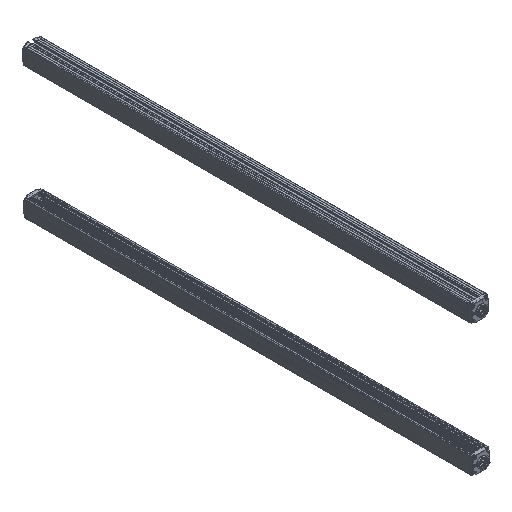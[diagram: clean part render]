
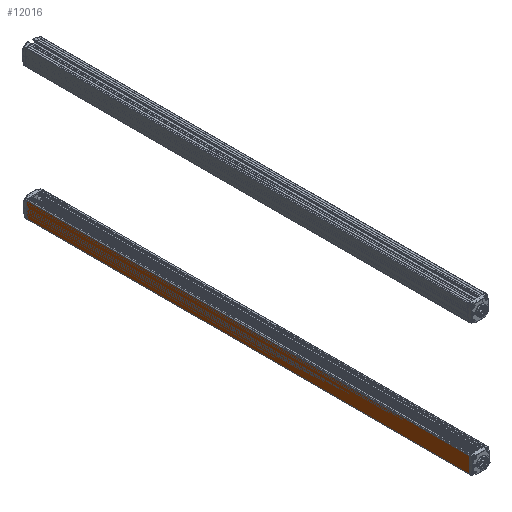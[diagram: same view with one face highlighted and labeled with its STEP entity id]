
A CAD part, isometric view. The second image highlights one B-rep face of the part: STEP entity #12016.
In plain terms, the highlighted planar face has unit normal (-1, 0, -0.009) as drawn and (1, 0, 0) by its records, which use the part's own axes.
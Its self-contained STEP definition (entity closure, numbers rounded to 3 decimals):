
#617 = ORIENTED_EDGE ( 'NONE', *, *, #15506, .T. ) ;
#2145 = CARTESIAN_POINT ( 'NONE',  ( 15., 0., -16.9 ) ) ;
#2593 = VERTEX_POINT ( 'NONE', #8473 ) ;
#3754 = CARTESIAN_POINT ( 'NONE',  ( 15., 770., -16.9 ) ) ;
#3949 = VECTOR ( 'NONE', #17865, 1000. ) ;
#4554 = VERTEX_POINT ( 'NONE', #4582 ) ;
#4582 = CARTESIAN_POINT ( 'NONE',  ( 15., 0., -16.693 ) ) ;
#4722 = DIRECTION ( 'NONE',  ( 0., -1., 0. ) ) ;
#5397 = VERTEX_POINT ( 'NONE', #18266 ) ;
#5401 = AXIS2_PLACEMENT_3D ( 'NONE', #12007, #7458, #10611 ) ;
#5612 = ORIENTED_EDGE ( 'NONE', *, *, #8802, .T. ) ;
#6107 = VECTOR ( 'NONE', #4722, 1000. ) ;
#7458 = DIRECTION ( 'NONE',  ( -1., 0., 0. ) ) ;
#7933 = ORIENTED_EDGE ( 'NONE', *, *, #11439, .T. ) ;
#8473 = CARTESIAN_POINT ( 'NONE',  ( 15., 770., 10.9 ) ) ;
#8792 = LINE ( 'NONE', #10362, #6107 ) ;
#8802 = EDGE_CURVE ( 'NONE', #5397, #4554, #17693, .T. ) ;
#9404 = DIRECTION ( 'NONE',  ( 0., 0., -1. ) ) ;
#9643 = CARTESIAN_POINT ( 'NONE',  ( 15., 770., -16.693 ) ) ;
#10362 = CARTESIAN_POINT ( 'NONE',  ( 15., 770., 10.9 ) ) ;
#10553 = VERTEX_POINT ( 'NONE', #13728 ) ;
#10611 = DIRECTION ( 'NONE',  ( 0., 0., 1. ) ) ;
#10827 = LINE ( 'NONE', #3754, #15016 ) ;
#11439 = EDGE_CURVE ( 'NONE', #4554, #10553, #14101, .T. ) ;
#11875 = VECTOR ( 'NONE', #16821, 1000. ) ;
#12007 = CARTESIAN_POINT ( 'NONE',  ( 15., 770., -16.9 ) ) ;
#12016 = ADVANCED_FACE ( 'NONE', ( #13397 ), #14704, .F. ) ;
#13397 = FACE_OUTER_BOUND ( 'NONE', #17713, .T. ) ;
#13728 = CARTESIAN_POINT ( 'NONE',  ( 15., 770., -16.693 ) ) ;
#14101 = LINE ( 'NONE', #9643, #11875 ) ;
#14704 = PLANE ( 'NONE',  #5401 ) ;
#15016 = VECTOR ( 'NONE', #9404, 1000. ) ;
#15506 = EDGE_CURVE ( 'NONE', #2593, #5397, #8792, .T. ) ;
#16265 = EDGE_CURVE ( 'NONE', #2593, #10553, #10827, .T. ) ;
#16821 = DIRECTION ( 'NONE',  ( 0., 1., 0. ) ) ;
#16869 = ORIENTED_EDGE ( 'NONE', *, *, #16265, .F. ) ;
#17693 = LINE ( 'NONE', #2145, #3949 ) ;
#17713 = EDGE_LOOP ( 'NONE', ( #5612, #7933, #16869, #617 ) ) ;
#17865 = DIRECTION ( 'NONE',  ( 0., 0., -1. ) ) ;
#18266 = CARTESIAN_POINT ( 'NONE',  ( 15., 0., 10.9 ) ) ;
